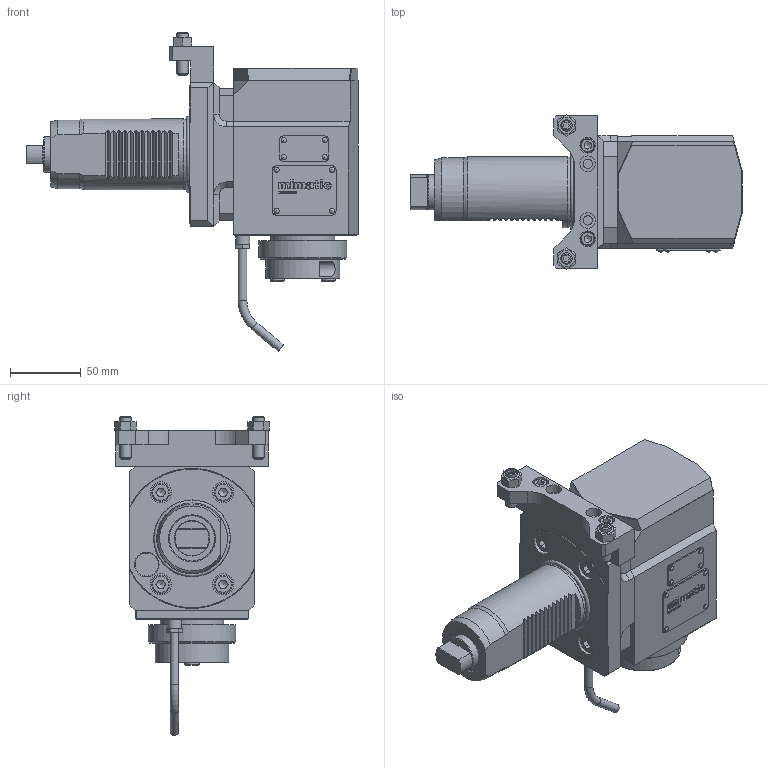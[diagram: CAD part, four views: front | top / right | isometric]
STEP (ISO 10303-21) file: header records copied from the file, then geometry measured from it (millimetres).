
FILE_DESCRIPTION(/* description */ (''),/* implementation_level */ '2;1');
FILE_NAME(/* name */ '124925',/* time_stamp */ '2020-07-20T11:47:52+02:00',/* author */ (''),/* organization */ (''),/* preprocessor_version */ 'ST-DEVELOPER v16.5',/* originating_system */ 'HiCAD 2017 2201.0 Build 268',/* authorisation */ '');
FILE_SCHEMA (('AUTOMOTIVE_DESIGN { 1 0 10303 214 1 1 1 1 }'));
Products named in the file (78): Root; Leeres Teil; 189771_BG-Schaft-EM-C-50_10*; 001_000X_201*; DIN 13-M20x1; 114012_O-Ring 47.29x2.6_330*; DIN 912      (Innensechskant)_Zylinderschraube 8x35_400*; GEWINDE; ISO 4032-M 8-6_Sechskantmutter ISO 4032-M 8-6_350*; DIN 913-M 8x30-45H_Gewindwstift DIN 913-M 8x30-45H_420*; Normteilgruppe _0; DIN 912      (Innensechskant)_Zylinderschraube 6x25_401*; 001_000X_205*; DIN 13-M8; ROTATIONSTEIL_1_200*; DIN 13-M50x1; Leeres Teil_20*; DIN 912      (Innensechskant)_Zylinderschraube 6x16_405*; 00087098_340*; DIN 76-M10x1; DIN 913-M 10x1x8-45H_Gewindestifte; ROTATIONSTEIL_0_150*; DIN 13-M15x1; DIN 76-M5; DIN 76-M10; DIN 76-M6; 003_000X_235*; 002_000X_100*; BG_M10; 112485_Überwurfschraube_353*; 112384_Doppelkegelring D6_352*; TORUS_1_354*; 00011769_372*; 113692_Kerbnagel 2x4_380*; QUADER_0_370*
Assembly tree (77 placements, depth 8):
  Root
    Leeres Teil
      189771_BG-Schaft-EM-C-50_10*
        Leeres Teil
          Leeres Teil
            001_000X_201*
              DIN 13-M20x1
          Leeres Teil
        Leeres Teil
          Leeres Teil
            114012_O-Ring 47.29x2.6_330*
            Leeres Teil
              DIN 912      (Innensechskant)_Zylinderschraube 8x35_400*
                GEWINDE
              DIN 912      (Innensechskant)_Zylinderschraube 8x35_400*
                GEWINDE
              DIN 912      (Innensechskant)_Zylinderschraube 8x35_400*
                GEWINDE
              DIN 912      (Innensechskant)_Zylinderschraube 8x35_400*
                GEWINDE
          Leeres Teil
            ISO 4032-M 8-6_Sechskantmutter ISO 4032-M 8-6_350*
              GEWINDE
            ISO 4032-M 8-6_Sechskantmutter ISO 4032-M 8-6_350*
              GEWINDE
            DIN 913-M 8x30-45H_Gewindwstift DIN 913-M 8x30-45H_420*
              GEWINDE
            DIN 913-M 8x30-45H_Gewindwstift DIN 913-M 8x30-45H_420*
              GEWINDE
            Normteilgruppe _0
              DIN 912      (Innensechskant)_Zylinderschraube 6x25_401*
                GEWINDE
              DIN 912      (Innensechskant)_Zylinderschraube 6x25_401*
                GEWINDE
            001_000X_205*
              DIN 13-M8
          ROTATIONSTEIL_1_200*
            DIN 13-M50x1
      Leeres Teil_20*
        Leeres Teil
          Leeres Teil
            DIN 912      (Innensechskant)_Zylinderschraube 6x16_405*
              GEWINDE
            DIN 912      (Innensechskant)_Zylinderschraube 6x16_405*
              GEWINDE
            00087098_340*
              DIN 76-M10x1
              DIN 913-M 10x1x8-45H_Gewindestifte
                GEWINDE
          Leeres Teil
            ROTATIONSTEIL_0_150*
              DIN 13-M15x1
              DIN 76-M5
              DIN 76-M10
              DIN 76-M6
        Leeres Teil
          Leeres Teil
            003_000X_235*
            002_000X_100*
          Leeres Teil
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Bounding box: 234.5 x 109.04 x 225.17 mm (x, y, z)
Volume: 1322940.2 mm3; surface area: 183836.3 mm2
Topology: 49 solids, 49 shells, 1421 faces, 3540 edges, 2321 vertices
Faces by surface type: plane 970, cylinder 179, bspline 176, cone 61, torus 27, sphere 8
Full cylindrical faces by diameter (mm): 2 x8, 2.2 x8, 4 x2, 4.773 x8, 5 x4, 6 x15, 6.466 x8, 6.6 x6, 8 x10, 8.5 x3, 8.773 x2, 9 x2, 10 x10, 11 x6, 13 x4, 15 x4, 16.3 x1, 20 x1, 25 x3, 25.4 x1, 45 x2, 48.7 x1, 50 x1, 52 x1, 62 x1
Entity records: 77420 total; most frequent: CARTESIAN_POINT 12715, PRESENTATION_STYLE_ASSIGNMENT 6572, COLOUR_RGB 6527, OVER_RIDING_STYLED_ITEM 6525, DRAUGHTING_PRE_DEFINED_CURVE_FONT 6522, CURVE_STYLE 6522, ORIENTED_EDGE 6522, DIRECTION 5972
